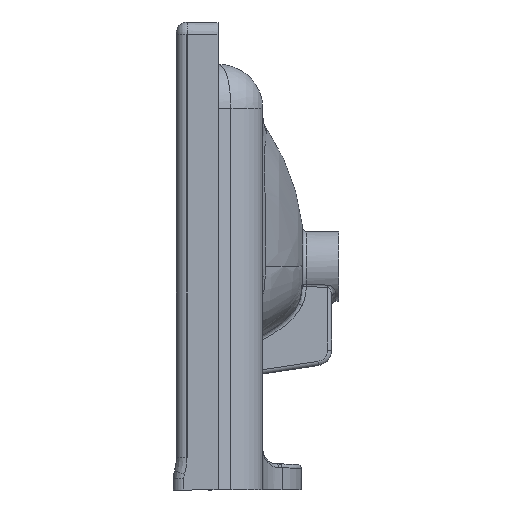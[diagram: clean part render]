
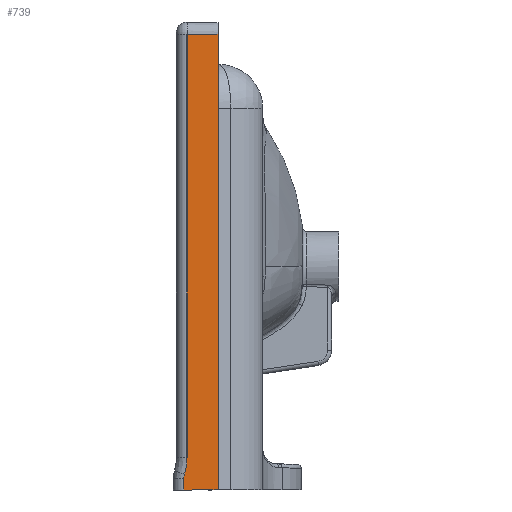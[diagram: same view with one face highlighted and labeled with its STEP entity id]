
A CAD part, left-side view. The second image highlights one B-rep face of the part: STEP entity #739.
In plain terms, the highlighted planar face has unit normal (-1, -0.021, 0).
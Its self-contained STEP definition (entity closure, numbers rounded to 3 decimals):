
#207 = DIRECTION ( 'NONE',  ( 0., 0., -1. ) ) ;
#739 = ADVANCED_FACE ( 'NONE', ( #31383 ), #14025, .T. ) ;
#1225 = CARTESIAN_POINT ( 'NONE',  ( -99.871, 192.907, -438.1 ) ) ;
#1348 = EDGE_CURVE ( 'NONE', #36720, #58783, #59873, .T. ) ;
#1815 = DIRECTION ( 'NONE',  ( -0.021, 1., 0. ) ) ;
#3181 = CARTESIAN_POINT ( 'NONE',  ( -99.871, 192.907, -439.65 ) ) ;
#3241 = ORIENTED_EDGE ( 'NONE', *, *, #1348, .F. ) ;
#4673 = LINE ( 'NONE', #76758, #53728 ) ;
#12413 = LINE ( 'NONE', #17931, #76282 ) ;
#13356 = CARTESIAN_POINT ( 'NONE',  ( -99.173, 160.12, -450.424 ) ) ;
#14025 = PLANE ( 'NONE',  #65985 ) ;
#14284 = CARTESIAN_POINT ( 'NONE',  ( -99.173, 160.12, -12.643 ) ) ;
#17931 = CARTESIAN_POINT ( 'NONE',  ( -99.871, 192.907, -0.423 ) ) ;
#18956 = CARTESIAN_POINT ( 'NONE',  ( -99.871, 192.907, -439.65 ) ) ;
#20702 = LINE ( 'NONE', #26222, #73213 ) ;
#22845 = EDGE_CURVE ( 'NONE', #53540, #40963, #44360, .T. ) ;
#24517 = CARTESIAN_POINT ( 'NONE',  ( -99.857, 192.241, -435.08 ) ) ;
#25080 = DIRECTION ( 'NONE',  ( -1., -0.021, 0. ) ) ;
#26222 = CARTESIAN_POINT ( 'NONE',  ( -100.113, 204.3, -450.424 ) ) ;
#26321 = EDGE_CURVE ( 'NONE', #58667, #73602, #4673, .T. ) ;
#31383 = FACE_OUTER_BOUND ( 'NONE', #65356, .T. ) ;
#31704 = LINE ( 'NONE', #55724, #43766 ) ;
#32101 = CARTESIAN_POINT ( 'NONE',  ( -99.857, 192.241, -435.08 ) ) ;
#33192 = ORIENTED_EDGE ( 'NONE', *, *, #42697, .T. ) ;
#33648 = EDGE_CURVE ( 'NONE', #58667, #36720, #31704, .T. ) ;
#34706 = CARTESIAN_POINT ( 'NONE',  ( -99.173, 160.12, -450.424 ) ) ;
#35776 = DIRECTION ( 'NONE',  ( 0., 0., -1. ) ) ;
#36720 = VERTEX_POINT ( 'NONE', #14284 ) ;
#37294 = DIRECTION ( 'NONE',  ( 0., 0., -1. ) ) ;
#38395 = DIRECTION ( 'NONE',  ( 0.021, -1., 0. ) ) ;
#40963 = VERTEX_POINT ( 'NONE', #3181 ) ;
#41818 = ORIENTED_EDGE ( 'NONE', *, *, #33648, .F. ) ;
#42697 = EDGE_CURVE ( 'NONE', #73602, #53540, #75644, .T. ) ;
#43766 = VECTOR ( 'NONE', #38395, 1000. ) ;
#44360 =( BOUNDED_CURVE ( )  B_SPLINE_CURVE ( 3, ( #54800, #66625, #1225, #18956 ),
 .UNSPECIFIED., .F., .T. ) 
 B_SPLINE_CURVE_WITH_KNOTS ( ( 4, 4 ),
 ( 5.993, 6.283 ),
 .UNSPECIFIED. ) 
 CURVE ( )  GEOMETRIC_REPRESENTATION_ITEM ( )  RATIONAL_B_SPLINE_CURVE ( ( 1., 0.993, 0.993, 1. ) ) 
 REPRESENTATION_ITEM ( '' )  );
#48900 = EDGE_CURVE ( 'NONE', #58783, #73510, #20702, .T. ) ;
#50082 = CARTESIAN_POINT ( 'NONE',  ( -99.807, 189.907, -419.083 ) ) ;
#50780 = CARTESIAN_POINT ( 'NONE',  ( -99.807, 189.907, -419.083 ) ) ;
#50900 = VECTOR ( 'NONE', #52820, 1000. ) ;
#52820 = DIRECTION ( 'NONE',  ( 0., 0., -1. ) ) ;
#53187 = CARTESIAN_POINT ( 'NONE',  ( -99.807, 189.907, -12.643 ) ) ;
#53540 = VERTEX_POINT ( 'NONE', #32101 ) ;
#53728 = VECTOR ( 'NONE', #35776, 1000. ) ;
#54800 = CARTESIAN_POINT ( 'NONE',  ( -99.857, 192.241, -435.08 ) ) ;
#55020 = CARTESIAN_POINT ( 'NONE',  ( -100.113, 204.3, -0.423 ) ) ;
#55724 = CARTESIAN_POINT ( 'NONE',  ( -100.113, 204.3, -12.643 ) ) ;
#58667 = VERTEX_POINT ( 'NONE', #53187 ) ;
#58783 = VERTEX_POINT ( 'NONE', #13356 ) ;
#59415 = EDGE_CURVE ( 'NONE', #40963, #73510, #12413, .T. ) ;
#59873 = LINE ( 'NONE', #34706, #50900 ) ;
#63280 = ORIENTED_EDGE ( 'NONE', *, *, #59415, .T. ) ;
#64122 = ORIENTED_EDGE ( 'NONE', *, *, #22845, .T. ) ;
#65356 = EDGE_LOOP ( 'NONE', ( #41818, #69839, #33192, #64122, #63280, #70631, #3241 ) ) ;
#65985 = AXIS2_PLACEMENT_3D ( 'NONE', #55020, #25080, #37294 ) ;
#66625 = CARTESIAN_POINT ( 'NONE',  ( -99.866, 192.684, -436.566 ) ) ;
#67425 = CARTESIAN_POINT ( 'NONE',  ( -99.807, 189.907, -424.51 ) ) ;
#67742 = CARTESIAN_POINT ( 'NONE',  ( -99.871, 192.907, -450.424 ) ) ;
#67818 = CARTESIAN_POINT ( 'NONE',  ( -99.824, 190.691, -429.88 ) ) ;
#69839 = ORIENTED_EDGE ( 'NONE', *, *, #26321, .T. ) ;
#70631 = ORIENTED_EDGE ( 'NONE', *, *, #48900, .F. ) ;
#73213 = VECTOR ( 'NONE', #1815, 1000. ) ;
#73510 = VERTEX_POINT ( 'NONE', #67742 ) ;
#73602 = VERTEX_POINT ( 'NONE', #50780 ) ;
#75644 =( BOUNDED_CURVE ( )  B_SPLINE_CURVE ( 3, ( #50082, #67425, #67818, #24517 ),
 .UNSPECIFIED., .F., .T. ) 
 B_SPLINE_CURVE_WITH_KNOTS ( ( 4, 4 ),
 ( 3.142, 3.431 ),
 .UNSPECIFIED. ) 
 CURVE ( )  GEOMETRIC_REPRESENTATION_ITEM ( )  RATIONAL_B_SPLINE_CURVE ( ( 1., 0.993, 0.993, 1. ) ) 
 REPRESENTATION_ITEM ( '' )  );
#76282 = VECTOR ( 'NONE', #207, 1000. ) ;
#76758 = CARTESIAN_POINT ( 'NONE',  ( -99.807, 189.907, -419.083 ) ) ;
